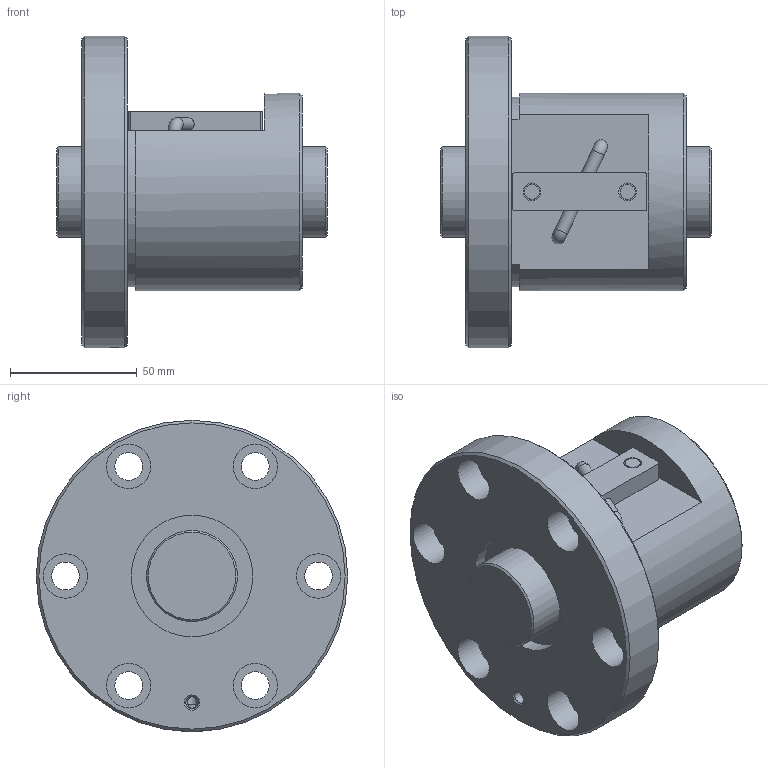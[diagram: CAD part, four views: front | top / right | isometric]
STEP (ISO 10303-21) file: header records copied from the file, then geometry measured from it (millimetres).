
FILE_DESCRIPTION(/* description */ ('STEP AP203'),/* implementation_level */ '2;1');
FILE_NAME(/* name */ 'BNF3612V-2.5RRG1+107LC0_000_rev',/* time_stamp */ '2024-08-06T08:39:19+02:00',/* author */ ('License CC BY-ND 4.0'),/* organization */ ('CADENAS'),/* preprocessor_version */ 'ST-DEVELOPER v19.3',/* originating_system */ 'PARTsolutions',/* authorisation */ ' ');
FILE_SCHEMA (('CONFIG_CONTROL_DESIGN'));
Length unit declared in the file: millimetre
Products named in the file (3): BNF3612V-2.5RRG1+107LC0_000_rev; BNF 3612-2.5RR000 Shaft; BNF 3612-2.5RR Nut
Assembly tree (2 placements, depth 2):
  BNF3612V-2.5RRG1+107LC0_000_rev
    BNF 3612-2.5RR000 Shaft
    BNF 3612-2.5RR Nut
Bounding box: 107 x 123 x 123 mm (x, y, z)
Volume: 505950.9 mm3; surface area: 76827.1 mm2
Topology: 2 solids, 2 shells, 69 faces, 148 edges, 96 vertices
Faces by surface type: cylinder 33, plane 27, cone 7, torus 2
Full cylindrical faces by diameter (mm): 4.5 x2, 4.917 x1, 5.198 x2, 6 x2, 7 x2, 11 x6, 17.5 x6, 36 x2, 48 x2, 78 x1, 123 x1
Entity records: 1755 total; most frequent: DIRECTION 312, CARTESIAN_POINT 296, ORIENTED_EDGE 200, AXIS2_PLACEMENT_3D 144, EDGE_LOOP 140, FACE_BOUND 140, EDGE_CURVE 100, VERTEX_POINT 86
